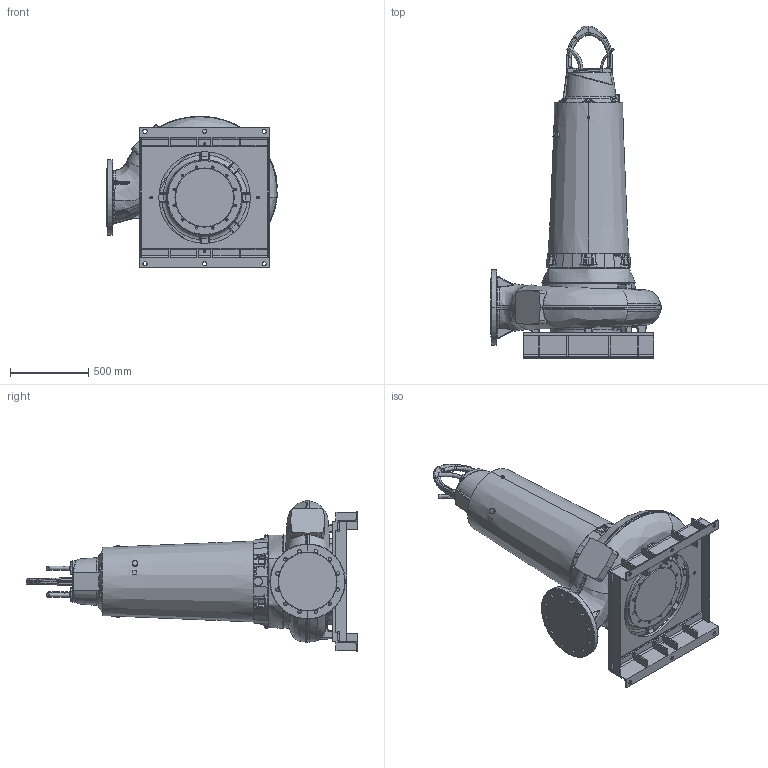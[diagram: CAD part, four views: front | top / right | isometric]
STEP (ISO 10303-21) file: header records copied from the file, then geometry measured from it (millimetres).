
FILE_DESCRIPTION (( 'STEP AP214' ), '1' );
FILE_NAME ('PE5_XFP301M-CH2_DRY_B_NG2.STEP', '2017-03-10T10:23:29', ( '' ), ( '' ), 'SwSTEP 2.0', 'SolidWorks 2017', '' );
FILE_SCHEMA (( 'AUTOMOTIVE_DESIGN' ));
Length unit declared in the file: millimetre
Products named in the file (1): PE5_XFP301M-CH2_DRY_B_NG2
Bounding box: 1089.63 x 2116.97 x 965.72 mm (x, y, z)
Volume: 428624551.8 mm3; surface area: 6560532.2 mm2
Topology: 3 solids, 21 shells, 1931 faces, 4867 edges, 2904 vertices
Faces by surface type: bspline 692, cylinder 446, plane 436, cone 198, torus 134, sphere 25
Entity records: 138089 total; most frequent: CARTESIAN_POINT 76734, ORIENTED_EDGE 9512, DIRECTION 6735, EDGE_CURVE 4756, VERTEX_POINT 2904, AXIS2_PLACEMENT_3D 2634, EDGE_LOOP 2068, UNCERTAINTY_MEASURE_WITH_UNIT 1936
